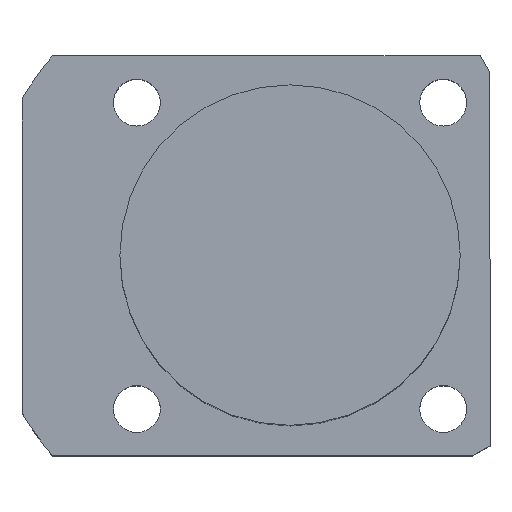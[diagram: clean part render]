
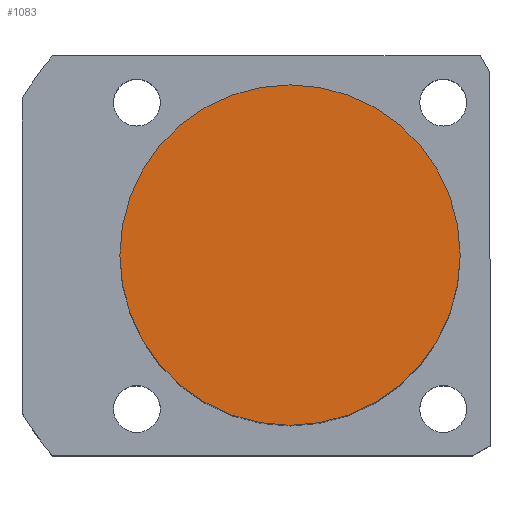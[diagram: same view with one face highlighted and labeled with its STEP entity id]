
A CAD part, top view. The second image highlights one B-rep face of the part: STEP entity #1083.
In plain terms, the highlighted planar face has unit normal (0, 0, 1).
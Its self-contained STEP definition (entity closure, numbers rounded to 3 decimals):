
#27 = EDGE_CURVE ( 'NONE', #732, #809, #205, .T. ) ;
#205 = CIRCLE ( 'NONE', #998, 20. ) ;
#215 = CARTESIAN_POINT ( 'NONE',  ( 0., 0., 61.5 ) ) ;
#492 = CARTESIAN_POINT ( 'NONE',  ( 0., 0., 61.5 ) ) ;
#586 = EDGE_LOOP ( 'NONE', ( #709, #968 ) ) ;
#676 = CARTESIAN_POINT ( 'NONE',  ( 0., 0., 61.5 ) ) ;
#680 = CIRCLE ( 'NONE', #1250, 20. ) ;
#706 = AXIS2_PLACEMENT_3D ( 'NONE', #676, #1219, #1349 ) ;
#709 = ORIENTED_EDGE ( 'NONE', *, *, #27, .T. ) ;
#732 = VERTEX_POINT ( 'NONE', #1118 ) ;
#809 = VERTEX_POINT ( 'NONE', #1449 ) ;
#892 = DIRECTION ( 'NONE',  ( 0., 0., 1. ) ) ;
#968 = ORIENTED_EDGE ( 'NONE', *, *, #1296, .T. ) ;
#998 = AXIS2_PLACEMENT_3D ( 'NONE', #215, #892, #1039 ) ;
#1033 = DIRECTION ( 'NONE',  ( 0., 0., 1. ) ) ;
#1039 = DIRECTION ( 'NONE',  ( 1., 0., 0. ) ) ;
#1083 = ADVANCED_FACE ( 'NONE', ( #1358 ), #1631, .T. ) ;
#1118 = CARTESIAN_POINT ( 'NONE',  ( -20., 0., 61.5 ) ) ;
#1219 = DIRECTION ( 'NONE',  ( 0., 0., 1. ) ) ;
#1250 = AXIS2_PLACEMENT_3D ( 'NONE', #492, #1033, #1700 ) ;
#1296 = EDGE_CURVE ( 'NONE', #809, #732, #680, .T. ) ;
#1349 = DIRECTION ( 'NONE',  ( 1., 0., 0. ) ) ;
#1358 = FACE_OUTER_BOUND ( 'NONE', #586, .T. ) ;
#1449 = CARTESIAN_POINT ( 'NONE',  ( 20., 0., 61.5 ) ) ;
#1631 = PLANE ( 'NONE',  #706 ) ;
#1700 = DIRECTION ( 'NONE',  ( 1., 0., 0. ) ) ;
